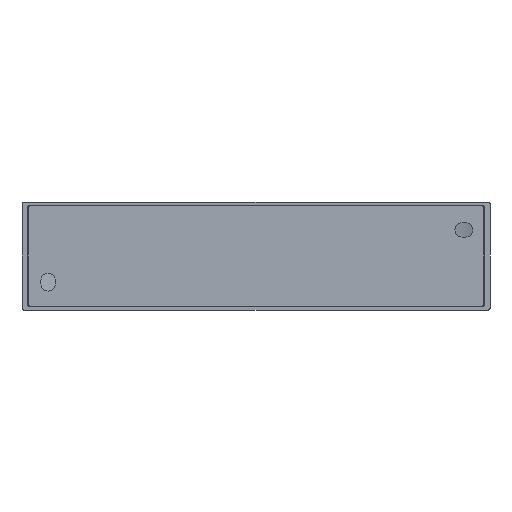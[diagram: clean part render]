
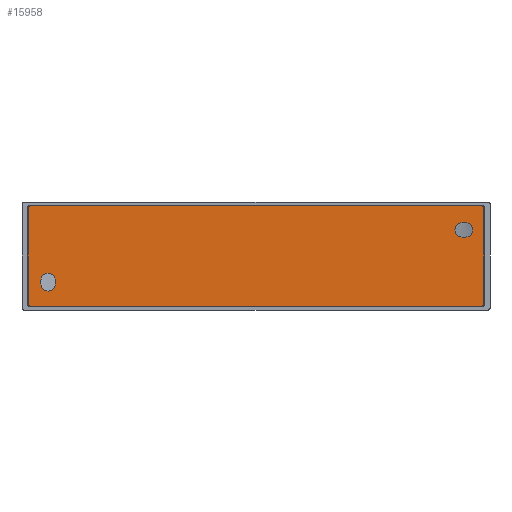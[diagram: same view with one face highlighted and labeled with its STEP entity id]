
A CAD part, front view. The second image highlights one B-rep face of the part: STEP entity #15958.
In plain terms, the highlighted planar face has unit normal (0, -1, 0).
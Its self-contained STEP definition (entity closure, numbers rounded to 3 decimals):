
#1713=DIRECTION('',(0.,0.,1.));
#1714=VECTOR('',#1713,26.8);
#1715=CARTESIAN_POINT('',(63.3,0.,-13.4));
#1716=LINE('',#1715,#1714);
#1877=DIRECTION('',(0.,0.,-1.));
#1878=VECTOR('',#1877,26.8);
#1879=CARTESIAN_POINT('',(-63.3,0.,13.4));
#1880=LINE('',#1879,#1878);
#1957=CARTESIAN_POINT('',(63.3,0.,13.4));
#1958=CARTESIAN_POINT('',(63.3,0.,13.442));
#1959=CARTESIAN_POINT('',(63.29,0.,13.515));
#1960=CARTESIAN_POINT('',(63.247,0.,13.639));
#1961=CARTESIAN_POINT('',(63.161,0.,13.761));
#1962=CARTESIAN_POINT('',(63.039,0.,13.847));
#1963=CARTESIAN_POINT('',(62.915,0.,13.89));
#1964=CARTESIAN_POINT('',(62.842,0.,13.9));
#1965=CARTESIAN_POINT('',(62.8,0.,13.9));
#1967=CARTESIAN_POINT('',(62.8,0.,-13.9));
#1968=CARTESIAN_POINT('',(62.842,0.,-13.9));
#1969=CARTESIAN_POINT('',(62.915,0.,-13.89));
#1970=CARTESIAN_POINT('',(63.039,0.,-13.847));
#1971=CARTESIAN_POINT('',(63.161,0.,-13.761));
#1972=CARTESIAN_POINT('',(63.247,0.,-13.639));
#1973=CARTESIAN_POINT('',(63.29,0.,-13.515));
#1974=CARTESIAN_POINT('',(63.3,0.,-13.442));
#1975=CARTESIAN_POINT('',(63.3,0.,-13.4));
#1977=DIRECTION('',(1.,0.,0.));
#1978=VECTOR('',#1977,125.6);
#1979=CARTESIAN_POINT('',(-62.8,0.,-13.9));
#1980=LINE('',#1979,#1978);
#1981=CARTESIAN_POINT('',(-63.3,0.,-13.4));
#1982=CARTESIAN_POINT('',(-63.3,0.,-13.442));
#1983=CARTESIAN_POINT('',(-63.29,0.,-13.515));
#1984=CARTESIAN_POINT('',(-63.247,0.,-13.639));
#1985=CARTESIAN_POINT('',(-63.161,0.,-13.761));
#1986=CARTESIAN_POINT('',(-63.039,0.,-13.847));
#1987=CARTESIAN_POINT('',(-62.915,0.,-13.89));
#1988=CARTESIAN_POINT('',(-62.842,0.,-13.9));
#1989=CARTESIAN_POINT('',(-62.8,0.,-13.9));
#1991=CARTESIAN_POINT('',(-62.8,0.,13.9));
#1992=CARTESIAN_POINT('',(-62.842,0.,13.9));
#1993=CARTESIAN_POINT('',(-62.915,0.,13.89));
#1994=CARTESIAN_POINT('',(-63.039,0.,13.847));
#1995=CARTESIAN_POINT('',(-63.161,0.,13.761));
#1996=CARTESIAN_POINT('',(-63.247,0.,13.639));
#1997=CARTESIAN_POINT('',(-63.29,0.,13.515));
#1998=CARTESIAN_POINT('',(-63.3,0.,13.442));
#1999=CARTESIAN_POINT('',(-63.3,0.,13.4));
#2001=DIRECTION('',(-1.,0.,0.));
#2002=VECTOR('',#2001,125.6);
#2003=CARTESIAN_POINT('',(62.8,0.,13.9));
#2004=LINE('',#2003,#2002);
#2005=CARTESIAN_POINT('',(58.25,0.,7.25));
#2006=DIRECTION('',(0.,1.,0.));
#2007=DIRECTION('',(0.,0.,1.));
#2008=AXIS2_PLACEMENT_3D('',#2005,#2006,#2007);
#2010=DIRECTION('',(1.,0.,0.));
#2011=VECTOR('',#2010,1.);
#2012=CARTESIAN_POINT('',(57.25,0.,9.25));
#2013=LINE('',#2012,#2011);
#2014=CARTESIAN_POINT('',(57.25,0.,7.25));
#2015=DIRECTION('',(0.,1.,0.));
#2016=DIRECTION('',(0.,0.,-1.));
#2017=AXIS2_PLACEMENT_3D('',#2014,#2015,#2016);
#2019=DIRECTION('',(-1.,0.,0.));
#2020=VECTOR('',#2019,1.);
#2021=CARTESIAN_POINT('',(58.25,0.,5.25));
#2022=LINE('',#2021,#2020);
#2023=CARTESIAN_POINT('',(-57.75,0.,-6.75));
#2024=DIRECTION('',(0.,1.,0.));
#2025=DIRECTION('',(-1.,0.,0.));
#2026=AXIS2_PLACEMENT_3D('',#2023,#2024,#2025);
#2028=DIRECTION('',(0.,0.,1.));
#2029=VECTOR('',#2028,1.);
#2030=CARTESIAN_POINT('',(-59.75,0.,-7.75));
#2031=LINE('',#2030,#2029);
#2032=CARTESIAN_POINT('',(-57.75,0.,-7.75));
#2033=DIRECTION('',(0.,1.,0.));
#2034=DIRECTION('',(1.,0.,0.));
#2035=AXIS2_PLACEMENT_3D('',#2032,#2033,#2034);
#2037=DIRECTION('',(0.,0.,-1.));
#2038=VECTOR('',#2037,1.);
#2039=CARTESIAN_POINT('',(-55.75,0.,-6.75));
#2040=LINE('',#2039,#2038);
#12856=CARTESIAN_POINT('',(58.25,0.,9.25));
#12857=CARTESIAN_POINT('',(58.25,0.,5.25));
#12858=VERTEX_POINT('',#12856);
#12859=VERTEX_POINT('',#12857);
#12860=CARTESIAN_POINT('',(57.25,0.,5.25));
#12861=VERTEX_POINT('',#12860);
#12862=CARTESIAN_POINT('',(57.25,0.,9.25));
#12863=VERTEX_POINT('',#12862);
#12864=CARTESIAN_POINT('',(-59.75,0.,-6.75));
#12865=CARTESIAN_POINT('',(-55.75,0.,-6.75));
#12866=VERTEX_POINT('',#12864);
#12867=VERTEX_POINT('',#12865);
#12868=CARTESIAN_POINT('',(-55.75,0.,-7.75));
#12869=VERTEX_POINT('',#12868);
#12870=CARTESIAN_POINT('',(-59.75,0.,-7.75));
#12871=VERTEX_POINT('',#12870);
#13388=VERTEX_POINT('',#1957);
#13389=VERTEX_POINT('',#1965);
#13390=VERTEX_POINT('',#1967);
#13391=VERTEX_POINT('',#1975);
#13392=VERTEX_POINT('',#1981);
#13393=VERTEX_POINT('',#1989);
#13394=VERTEX_POINT('',#1991);
#13395=VERTEX_POINT('',#1999);
#15921=CARTESIAN_POINT('',(0.,0.,0.));
#15922=DIRECTION('',(0.,-1.,0.));
#15923=DIRECTION('',(1.,0.,0.));
#15924=AXIS2_PLACEMENT_3D('',#15921,#15922,#15923);
#15925=PLANE('',#15924);
#15926=ORIENTED_EDGE('',*,*,#15729,.F.);
#15927=ORIENTED_EDGE('',*,*,#15789,.F.);
#15929=ORIENTED_EDGE('',*,*,#15928,.F.);
#15930=ORIENTED_EDGE('',*,*,#15914,.F.);
#15931=ORIENTED_EDGE('',*,*,#15875,.F.);
#15932=ORIENTED_EDGE('',*,*,#15862,.F.);
#15934=ORIENTED_EDGE('',*,*,#15933,.F.);
#15935=ORIENTED_EDGE('',*,*,#15714,.F.);
#15936=EDGE_LOOP('',(#15926,#15927,#15929,#15930,#15931,#15932,#15934,#15935));
#15937=FACE_OUTER_BOUND('',#15936,.F.);
#15939=ORIENTED_EDGE('',*,*,#15938,.F.);
#15941=ORIENTED_EDGE('',*,*,#15940,.F.);
#15943=ORIENTED_EDGE('',*,*,#15942,.F.);
#15945=ORIENTED_EDGE('',*,*,#15944,.F.);
#15946=EDGE_LOOP('',(#15939,#15941,#15943,#15945));
#15947=FACE_BOUND('',#15946,.F.);
#15949=ORIENTED_EDGE('',*,*,#15948,.F.);
#15951=ORIENTED_EDGE('',*,*,#15950,.F.);
#15953=ORIENTED_EDGE('',*,*,#15952,.F.);
#15955=ORIENTED_EDGE('',*,*,#15954,.F.);
#15956=EDGE_LOOP('',(#15949,#15951,#15953,#15955));
#15957=FACE_BOUND('',#15956,.F.);
#15958=ADVANCED_FACE('',(#15937,#15947,#15957),#15925,.T.);
#1966=B_SPLINE_CURVE_WITH_KNOTS('',3,(#1957,#1958,#1959,#1960,#1961,#1962,#1963,
#1964,#1965),.UNSPECIFIED.,.F.,.F.,(4,1,1,1,1,1,4),(0.,0.125,0.25,0.5,
0.75,0.875,1.),.UNSPECIFIED.);
#1976=B_SPLINE_CURVE_WITH_KNOTS('',3,(#1967,#1968,#1969,#1970,#1971,#1972,#1973,
#1974,#1975),.UNSPECIFIED.,.F.,.F.,(4,1,1,1,1,1,4),(0.,0.125,0.25,0.5,
0.75,0.875,1.),.UNSPECIFIED.);
#1990=B_SPLINE_CURVE_WITH_KNOTS('',3,(#1981,#1982,#1983,#1984,#1985,#1986,#1987,
#1988,#1989),.UNSPECIFIED.,.F.,.F.,(4,1,1,1,1,1,4),(0.,0.125,0.25,0.5,
0.75,0.875,1.),.UNSPECIFIED.);
#2000=B_SPLINE_CURVE_WITH_KNOTS('',3,(#1991,#1992,#1993,#1994,#1995,#1996,#1997,
#1998,#1999),.UNSPECIFIED.,.F.,.F.,(4,1,1,1,1,1,4),(0.,0.125,0.25,0.5,
0.75,0.875,1.),.UNSPECIFIED.);
#2009=CIRCLE('',#2008,2.);
#2018=CIRCLE('',#2017,2.);
#2027=CIRCLE('',#2026,2.);
#2036=CIRCLE('',#2035,2.);
#15714=EDGE_CURVE('',#13389,#13394,#2004,.T.);
#15729=EDGE_CURVE('',#13388,#13389,#1966,.T.);
#15789=EDGE_CURVE('',#13391,#13388,#1716,.T.);
#15862=EDGE_CURVE('',#13395,#13392,#1880,.T.);
#15875=EDGE_CURVE('',#13392,#13393,#1990,.T.);
#15914=EDGE_CURVE('',#13393,#13390,#1980,.T.);
#15928=EDGE_CURVE('',#13390,#13391,#1976,.T.);
#15933=EDGE_CURVE('',#13394,#13395,#2000,.T.);
#15938=EDGE_CURVE('',#12858,#12859,#2009,.T.);
#15940=EDGE_CURVE('',#12863,#12858,#2013,.T.);
#15942=EDGE_CURVE('',#12861,#12863,#2018,.T.);
#15944=EDGE_CURVE('',#12859,#12861,#2022,.T.);
#15948=EDGE_CURVE('',#12866,#12867,#2027,.T.);
#15950=EDGE_CURVE('',#12871,#12866,#2031,.T.);
#15952=EDGE_CURVE('',#12869,#12871,#2036,.T.);
#15954=EDGE_CURVE('',#12867,#12869,#2040,.T.);
